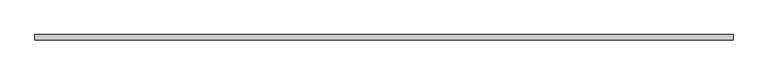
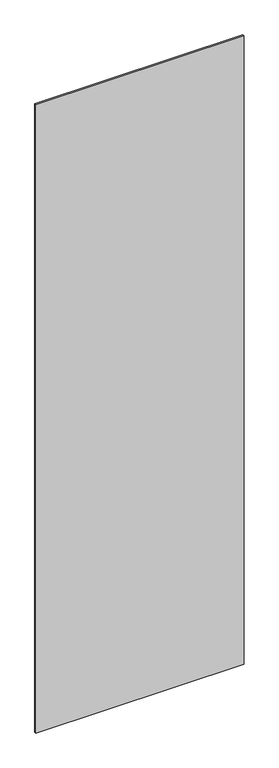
"""IFC4 building model written with IfcOpenShell, lengths in millimetres: plate geometry, システム パネル : 標準."""

from ifc_helpers import new_model, si_unit, origin, origin_with_axes, place, context, project, spatial, polyline, outline, extrude, source, transform, mapped, element, save


def plate_c99299e2(model_context):
    return source(origin(), model_context, "Body", "SweptSolid", [
        extrude(outline(polyline([(684.4791183, -5.0), (-684.4791183, -5.0), (-684.4791183, 5.0), (684.4791183, 5.0), (684.4791183, -5.0)])), origin_with_axes(), (0.0, 0.0, 1.0), 4360.0),
    ])


if __name__ == "__main__":
    model = new_model("IFC4")
    model_context = context("Model", 3, world=origin())
    ifc_project = project(units=[si_unit("LENGTHUNIT", "METRE", prefix="MILLI")], contexts=[model_context])
    site = spatial("IfcSite", under=ifc_project)
    building = spatial("IfcBuilding", under=site)
    placement = place(None, origin())
    plate_shape = plate_c99299e2(model_context)
    element("IfcPlate", 1, ObjectType="システム パネル : 標準", at=placement, inside=building, context=model_context, shape_type="MappedRepresentation", body=[
        mapped(plate_shape, transform((0.0, 0.0, 0.0), x_axis=(1.0, 0.0, 0.0), y_axis=(0.0, 1.0, 0.0), z_axis=(0.0, 0.0, 1.0))),
    ])
    save(model, "model.ifc")
